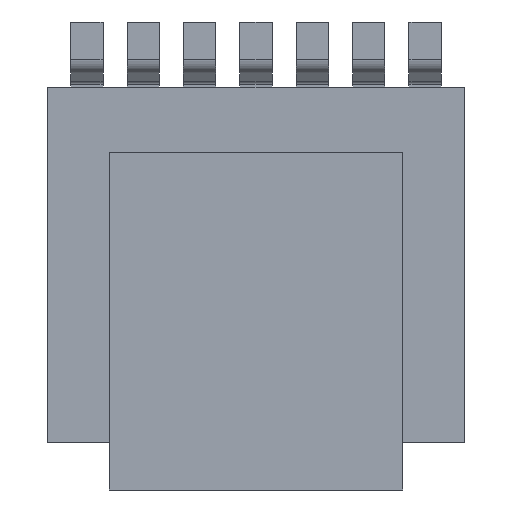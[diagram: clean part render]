
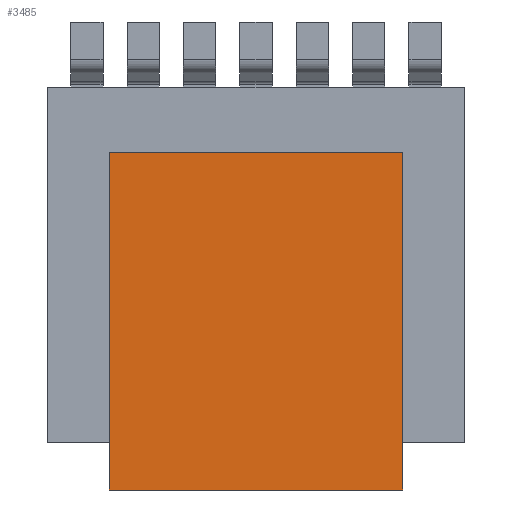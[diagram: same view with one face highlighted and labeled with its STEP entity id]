
A CAD part, front view. The second image highlights one B-rep face of the part: STEP entity #3485.
In plain terms, the highlighted planar face has unit normal (0, -1, 0).
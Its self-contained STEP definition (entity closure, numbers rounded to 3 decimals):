
#3338 = CARTESIAN_POINT ( 'NONE',  ( 3.3, 0., 2.32 ) ) ;
#3339 = VERTEX_POINT ( 'NONE', #3338 ) ;
#3340 = CARTESIAN_POINT ( 'NONE',  ( 3.3, 0., -5.27 ) ) ;
#3341 = VERTEX_POINT ( 'NONE', #3340 ) ;
#3342 = CARTESIAN_POINT ( 'NONE',  ( 3.3, 0., 2.32 ) ) ;
#3343 = DIRECTION ( 'NONE',  ( 0., 0., -1. ) ) ;
#3344 = VECTOR ( 'NONE', #3343, 1000. ) ;
#3345 = LINE ( 'NONE', #3342, #3344 ) ;
#3346 = EDGE_CURVE ( 'NONE', #3339, #3341, #3345, .T. ) ;
#3378 = CARTESIAN_POINT ( 'NONE',  ( -3.3, 0., -5.27 ) ) ;
#3379 = VERTEX_POINT ( 'NONE', #3378 ) ;
#3380 = CARTESIAN_POINT ( 'NONE',  ( -3.3, 0., -5.27 ) ) ;
#3381 = DIRECTION ( 'NONE',  ( -1., 0., 0. ) ) ;
#3382 = VECTOR ( 'NONE', #3381, 1000. ) ;
#3383 = LINE ( 'NONE', #3380, #3382 ) ;
#3384 = EDGE_CURVE ( 'NONE', #3341, #3379, #3383, .T. ) ;
#3409 = CARTESIAN_POINT ( 'NONE',  ( -3.3, 0., 2.32 ) ) ;
#3410 = VERTEX_POINT ( 'NONE', #3409 ) ;
#3411 = CARTESIAN_POINT ( 'NONE',  ( -3.3, 0., 2.32 ) ) ;
#3412 = DIRECTION ( 'NONE',  ( 0., 0., 1. ) ) ;
#3413 = VECTOR ( 'NONE', #3412, 1000. ) ;
#3414 = LINE ( 'NONE', #3411, #3413 ) ;
#3415 = EDGE_CURVE ( 'NONE', #3379, #3410, #3414, .T. ) ;
#3440 = CARTESIAN_POINT ( 'NONE',  ( -3.3, 0., 2.32 ) ) ;
#3441 = DIRECTION ( 'NONE',  ( 1., 0., 0. ) ) ;
#3442 = VECTOR ( 'NONE', #3441, 1000. ) ;
#3443 = LINE ( 'NONE', #3440, #3442 ) ;
#3444 = EDGE_CURVE ( 'NONE', #3410, #3339, #3443, .T. ) ;
#3474 = ORIENTED_EDGE ( 'NONE', *, *, #3346, .F. ) ;
#3475 = ORIENTED_EDGE ( 'NONE', *, *, #3444, .F. ) ;
#3476 = ORIENTED_EDGE ( 'NONE', *, *, #3415, .F. ) ;
#3477 = ORIENTED_EDGE ( 'NONE', *, *, #3384, .F. ) ;
#3478 = EDGE_LOOP ( 'NONE', ( #3474, #3475, #3476, #3477 ) ) ;
#3479 = FACE_OUTER_BOUND ( 'NONE', #3478, .T. ) ;
#3480 = CARTESIAN_POINT ( 'NONE',  ( 0., 0., -1.475 ) ) ;
#3481 = DIRECTION ( 'NONE',  ( 0., -1., 0. ) ) ;
#3482 = DIRECTION ( 'NONE',  ( 0., 0., -1. ) ) ;
#3483 = AXIS2_PLACEMENT_3D ( 'NONE', #3480, #3481, #3482 ) ;
#3484 = PLANE ( 'NONE', #3483 ) ;
#3485 = ADVANCED_FACE ( 'NONE', ( #3479 ), #3484, .T. ) ;
